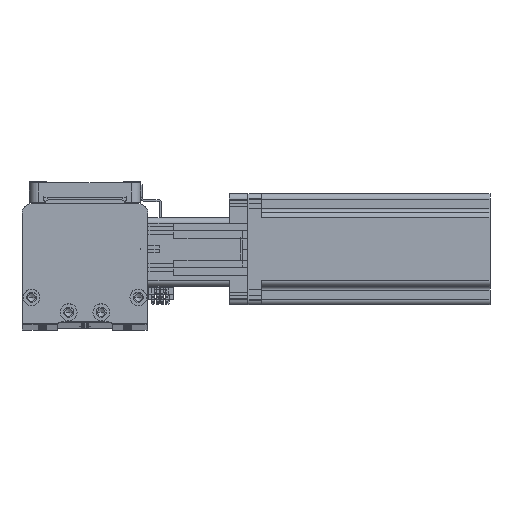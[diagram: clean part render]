
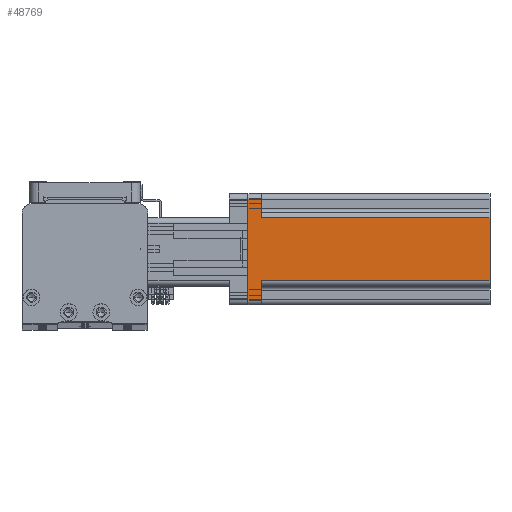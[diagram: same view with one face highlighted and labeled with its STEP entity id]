
A CAD part, top view. The second image highlights one B-rep face of the part: STEP entity #48769.
In plain terms, the highlighted planar face has unit normal (0, 0, 1) as drawn and (1, 0, 0) by its records, which use the part's own axes.
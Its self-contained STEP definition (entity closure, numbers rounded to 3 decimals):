
#2710 = DIRECTION ( 'NONE',  ( 0., 0., -1. ) ) ;
#2751 = DIRECTION ( 'NONE',  ( 0., 1., 0. ) ) ;
#3366 = ORIENTED_EDGE ( 'NONE', *, *, #9164, .T. ) ;
#3907 = DIRECTION ( 'NONE',  ( 0., 0., 1. ) ) ;
#4801 = CARTESIAN_POINT ( 'NONE',  ( 30., -27., 130.7 ) ) ;
#6020 = VERTEX_POINT ( 'NONE', #42089 ) ;
#6626 = VECTOR ( 'NONE', #33938, 1000. ) ;
#6731 = EDGE_LOOP ( 'NONE', ( #47945, #14847, #40597, #12903, #3366, #10608, #20371, #26766 ) ) ;
#7364 = EDGE_CURVE ( 'NONE', #25422, #13917, #27638, .T. ) ;
#9164 = EDGE_CURVE ( 'NONE', #25401, #17014, #39616, .T. ) ;
#9562 = LINE ( 'NONE', #31259, #51773 ) ;
#10608 = ORIENTED_EDGE ( 'NONE', *, *, #20967, .T. ) ;
#11186 = CARTESIAN_POINT ( 'NONE',  ( 30., 17., 130.7 ) ) ;
#12075 = CARTESIAN_POINT ( 'NONE',  ( 30., 17., 130.7 ) ) ;
#12903 = ORIENTED_EDGE ( 'NONE', *, *, #36619, .T. ) ;
#13097 = VECTOR ( 'NONE', #3907, 1000. ) ;
#13917 = VERTEX_POINT ( 'NONE', #27615 ) ;
#14402 = LINE ( 'NONE', #12075, #13097 ) ;
#14847 = ORIENTED_EDGE ( 'NONE', *, *, #22263, .T. ) ;
#16047 = EDGE_CURVE ( 'NONE', #19723, #34958, #24387, .T. ) ;
#17014 = VERTEX_POINT ( 'NONE', #52872 ) ;
#18407 = CARTESIAN_POINT ( 'NONE',  ( 30., -17., 7.5 ) ) ;
#18624 = VECTOR ( 'NONE', #29222, 1000. ) ;
#19525 = LINE ( 'NONE', #33433, #41277 ) ;
#19723 = VERTEX_POINT ( 'NONE', #37109 ) ;
#20371 = ORIENTED_EDGE ( 'NONE', *, *, #52950, .F. ) ;
#20967 = EDGE_CURVE ( 'NONE', #17014, #26524, #28344, .T. ) ;
#21490 = CARTESIAN_POINT ( 'NONE',  ( 30., -30., 130.7 ) ) ;
#22263 = EDGE_CURVE ( 'NONE', #19723, #25422, #9562, .T. ) ;
#22934 = DIRECTION ( 'NONE',  ( -1., 0., 0. ) ) ;
#23563 = EDGE_CURVE ( 'NONE', #6020, #34958, #14402, .T. ) ;
#24387 = LINE ( 'NONE', #21490, #44846 ) ;
#25401 = VERTEX_POINT ( 'NONE', #38823 ) ;
#25422 = VERTEX_POINT ( 'NONE', #18407 ) ;
#25608 = DIRECTION ( 'NONE',  ( 0., 1., 0. ) ) ;
#26372 = VECTOR ( 'NONE', #37291, 1000. ) ;
#26524 = VERTEX_POINT ( 'NONE', #27366 ) ;
#26677 = PLANE ( 'NONE',  #50366 ) ;
#26766 = ORIENTED_EDGE ( 'NONE', *, *, #23563, .T. ) ;
#27162 = CARTESIAN_POINT ( 'NONE',  ( 30., -30., 0. ) ) ;
#27366 = CARTESIAN_POINT ( 'NONE',  ( 30., 27., 7.5 ) ) ;
#27410 = FACE_OUTER_BOUND ( 'NONE', #6731, .T. ) ;
#27615 = CARTESIAN_POINT ( 'NONE',  ( 30., -27., 7.5 ) ) ;
#27638 = LINE ( 'NONE', #33185, #26372 ) ;
#28344 = LINE ( 'NONE', #38039, #6626 ) ;
#29222 = DIRECTION ( 'NONE',  ( 0., 0., -1. ) ) ;
#31259 = CARTESIAN_POINT ( 'NONE',  ( 30., -17., 7.5 ) ) ;
#33185 = CARTESIAN_POINT ( 'NONE',  ( 30., -30., 7.5 ) ) ;
#33433 = CARTESIAN_POINT ( 'NONE',  ( 30., 30., 7.5 ) ) ;
#33938 = DIRECTION ( 'NONE',  ( 0., 0., 1. ) ) ;
#34958 = VERTEX_POINT ( 'NONE', #11186 ) ;
#36619 = EDGE_CURVE ( 'NONE', #13917, #25401, #49940, .T. ) ;
#37109 = CARTESIAN_POINT ( 'NONE',  ( 30., -17., 130.7 ) ) ;
#37291 = DIRECTION ( 'NONE',  ( 0., -1., 0. ) ) ;
#38039 = CARTESIAN_POINT ( 'NONE',  ( 30., 27., 130.7 ) ) ;
#38823 = CARTESIAN_POINT ( 'NONE',  ( 30., -27., 0. ) ) ;
#39616 = LINE ( 'NONE', #27162, #49169 ) ;
#40597 = ORIENTED_EDGE ( 'NONE', *, *, #7364, .T. ) ;
#41253 = DIRECTION ( 'NONE',  ( 0., 1., 0. ) ) ;
#41277 = VECTOR ( 'NONE', #41253, 1000. ) ;
#42089 = CARTESIAN_POINT ( 'NONE',  ( 30., 17., 7.5 ) ) ;
#44846 = VECTOR ( 'NONE', #25608, 1000. ) ;
#47410 = CARTESIAN_POINT ( 'NONE',  ( 30., -30., 130.7 ) ) ;
#47945 = ORIENTED_EDGE ( 'NONE', *, *, #16047, .F. ) ;
#48769 = ADVANCED_FACE ( 'NONE', ( #27410 ), #26677, .F. ) ;
#49169 = VECTOR ( 'NONE', #2751, 1000. ) ;
#49940 = LINE ( 'NONE', #4801, #18624 ) ;
#50366 = AXIS2_PLACEMENT_3D ( 'NONE', #47410, #22934, #51509 ) ;
#51509 = DIRECTION ( 'NONE',  ( 0., 0., 1. ) ) ;
#51773 = VECTOR ( 'NONE', #2710, 1000. ) ;
#52872 = CARTESIAN_POINT ( 'NONE',  ( 30., 27., 0. ) ) ;
#52950 = EDGE_CURVE ( 'NONE', #6020, #26524, #19525, .T. ) ;
